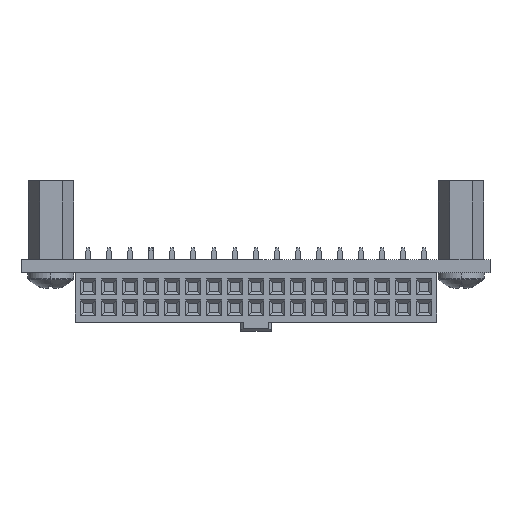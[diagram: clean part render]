
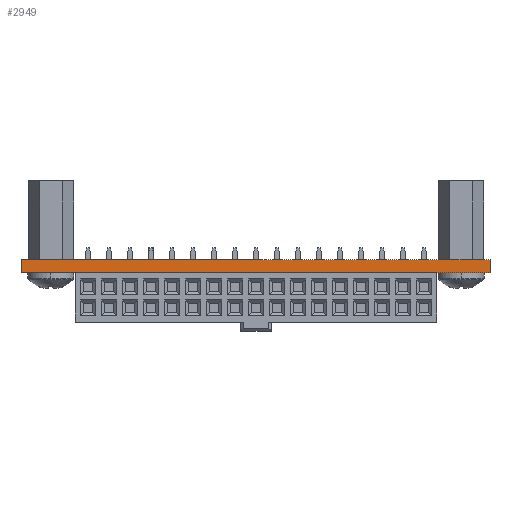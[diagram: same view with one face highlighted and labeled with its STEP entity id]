
A CAD part, left-side view. The second image highlights one B-rep face of the part: STEP entity #2949.
In plain terms, the highlighted planar face has unit normal (-1, 0, 0).
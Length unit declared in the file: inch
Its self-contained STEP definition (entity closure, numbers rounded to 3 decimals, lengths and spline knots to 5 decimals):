
#371=DIRECTION('',(0.,-1.,0.));
#372=VECTOR('',#371,2.23);
#373=CARTESIAN_POINT('',(-2.5605,1.115,0.));
#374=LINE('',#373,#372);
#790=DIRECTION('',(0.,-1.,0.));
#791=VECTOR('',#790,2.23);
#792=CARTESIAN_POINT('',(-2.5605,1.115,0.062));
#793=LINE('',#792,#791);
#1098=DIRECTION('',(0.,0.,1.));
#1099=VECTOR('',#1098,0.062);
#1100=CARTESIAN_POINT('',(-2.5605,-1.115,0.));
#1101=LINE('',#1100,#1099);
#1106=DIRECTION('',(0.,0.,1.));
#1107=VECTOR('',#1106,0.062);
#1108=CARTESIAN_POINT('',(-2.5605,1.115,0.));
#1109=LINE('',#1108,#1107);
#1110=CARTESIAN_POINT('',(-2.5605,1.115,0.));
#1111=CARTESIAN_POINT('',(-2.5605,-1.115,0.));
#1112=VERTEX_POINT('',#1110);
#1113=VERTEX_POINT('',#1111);
#1118=CARTESIAN_POINT('',(-2.5605,1.115,0.062));
#1119=CARTESIAN_POINT('',(-2.5605,-1.115,0.062));
#1120=VERTEX_POINT('',#1118);
#1121=VERTEX_POINT('',#1119);
#2938=CARTESIAN_POINT('',(-2.5605,1.115,0.));
#2939=DIRECTION('',(-1.,0.,0.));
#2940=DIRECTION('',(0.,-1.,0.));
#2941=AXIS2_PLACEMENT_3D('',#2938,#2939,#2940);
#2942=PLANE('',#2941);
#2943=ORIENTED_EDGE('',*,*,#1439,.F.);
#2944=ORIENTED_EDGE('',*,*,#2880,.T.);
#2945=ORIENTED_EDGE('',*,*,#1715,.T.);
#2946=ORIENTED_EDGE('',*,*,#2907,.F.);
#2947=EDGE_LOOP('',(#2943,#2944,#2945,#2946));
#2948=FACE_OUTER_BOUND('',#2947,.F.);
#2949=ADVANCED_FACE('',(#2948),#2942,.T.);
#1439=EDGE_CURVE('',#1112,#1113,#374,.T.);
#1715=EDGE_CURVE('',#1120,#1121,#793,.T.);
#2880=EDGE_CURVE('',#1112,#1120,#1109,.T.);
#2907=EDGE_CURVE('',#1113,#1121,#1101,.T.);
